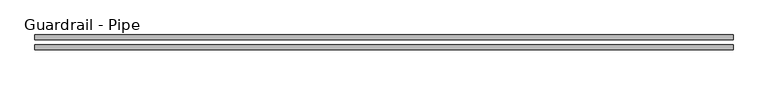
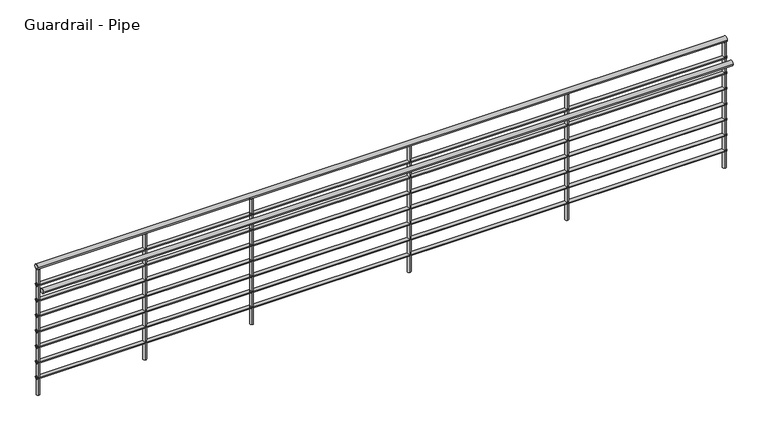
"""IFC4 building model written with IfcOpenShell, lengths in millimetres: railing geometry, Guardrail - Pipe."""

from ifc_helpers import new_model, si_unit, point, frame, frame_2d, origin, place, context, project, spatial, circle_curve, trimmed, segment, composite_curve, outline, extrude, source, transform, mapped, element, save


def guardrail_pipe_18aa489d(model_context):
    return source(origin(), model_context, "Body", "SweptSolid", [
        extrude(outline(composite_curve([segment(trimmed(circle_curve(frame_2d((3025.4810017, 4705.35)), 19.05), [point((3044.5310017, 4705.35))], [point((3006.4310017, 4705.35))], False, "CARTESIAN"), True, "CONTINUOUS"), segment(trimmed(circle_curve(frame_2d((3025.4810017, 4705.35)), 19.05), [point((3006.4310017, 4705.35))], [point((3044.5310017, 4705.35))], False, "CARTESIAN"), True, "CONTINUOUS")], self_intersect=False)), frame((1673.4060388, 0.0, 0.0), z_axis=(1.0, 0.0, 0.0), x_axis=(0.0, 1.0, 0.0)), (0.0, 0.0, 1.0), 5334.0),
        extrude(outline(composite_curve([segment(trimmed(circle_curve(frame_2d((3025.4810017, 4559.3)), 12.7), [point((3038.1810017, 4559.3))], [point((3012.7810017, 4559.3))], False, "CARTESIAN"), True, "CONTINUOUS"), segment(trimmed(circle_curve(frame_2d((3025.4810017, 4559.3)), 12.7), [point((3012.7810017, 4559.3))], [point((3038.1810017, 4559.3))], False, "CARTESIAN"), True, "CONTINUOUS")], self_intersect=False)), frame((1673.4060388, 0.0, 0.0), z_axis=(1.0, 0.0, 0.0), x_axis=(0.0, 1.0, 0.0)), (0.0, 0.0, 1.0), 5334.0),
        extrude(outline(composite_curve([segment(trimmed(circle_curve(frame_2d((2949.2810017, 4552.95)), 19.05), [point((2968.3310017, 4552.95))], [point((2930.2310017, 4552.95))], False, "CARTESIAN"), True, "CONTINUOUS"), segment(trimmed(circle_curve(frame_2d((2949.2810017, 4552.95)), 19.05), [point((2930.2310017, 4552.95))], [point((2968.3310017, 4552.95))], False, "CARTESIAN"), True, "CONTINUOUS")], self_intersect=False)), frame((1673.4060388, 0.0, 0.0), z_axis=(1.0, 0.0, 0.0), x_axis=(0.0, 1.0, 0.0)), (0.0, 0.0, 1.0), 5334.0),
        extrude(outline(composite_curve([segment(trimmed(circle_curve(frame_2d((3025.4810017, 4432.3)), 12.7), [point((3038.1810017, 4432.3))], [point((3012.7810017, 4432.3))], False, "CARTESIAN"), True, "CONTINUOUS"), segment(trimmed(circle_curve(frame_2d((3025.4810017, 4432.3)), 12.7), [point((3012.7810017, 4432.3))], [point((3038.1810017, 4432.3))], False, "CARTESIAN"), True, "CONTINUOUS")], self_intersect=False)), frame((1673.4060388, 0.0, 0.0), z_axis=(1.0, 0.0, 0.0), x_axis=(0.0, 1.0, 0.0)), (0.0, 0.0, 1.0), 5334.0),
        extrude(outline(composite_curve([segment(trimmed(circle_curve(frame_2d((3025.4810017, 4305.3)), 12.7), [point((3038.1810017, 4305.3))], [point((3012.7810017, 4305.3))], False, "CARTESIAN"), True, "CONTINUOUS"), segment(trimmed(circle_curve(frame_2d((3025.4810017, 4305.3)), 12.7), [point((3012.7810017, 4305.3))], [point((3038.1810017, 4305.3))], False, "CARTESIAN"), True, "CONTINUOUS")], self_intersect=False)), frame((1673.4060388, 0.0, 0.0), z_axis=(1.0, 0.0, 0.0), x_axis=(0.0, 1.0, 0.0)), (0.0, 0.0, 1.0), 5334.0),
        extrude(outline(composite_curve([segment(trimmed(circle_curve(frame_2d((3025.4810017, 4178.3)), 12.7), [point((3038.1810017, 4178.3))], [point((3012.7810017, 4178.3))], False, "CARTESIAN"), True, "CONTINUOUS"), segment(trimmed(circle_curve(frame_2d((3025.4810017, 4178.3)), 12.7), [point((3012.7810017, 4178.3))], [point((3038.1810017, 4178.3))], False, "CARTESIAN"), True, "CONTINUOUS")], self_intersect=False)), frame((1673.4060388, 0.0, 0.0), z_axis=(1.0, 0.0, 0.0), x_axis=(0.0, 1.0, 0.0)), (0.0, 0.0, 1.0), 5334.0),
        extrude(outline(composite_curve([segment(trimmed(circle_curve(frame_2d((3025.4810017, 4051.3)), 12.7), [point((3038.1810017, 4051.3))], [point((3012.7810017, 4051.3))], False, "CARTESIAN"), True, "CONTINUOUS"), segment(trimmed(circle_curve(frame_2d((3025.4810017, 4051.3)), 12.7), [point((3012.7810017, 4051.3))], [point((3038.1810017, 4051.3))], False, "CARTESIAN"), True, "CONTINUOUS")], self_intersect=False)), frame((1673.4060388, 0.0, 0.0), z_axis=(1.0, 0.0, 0.0), x_axis=(0.0, 1.0, 0.0)), (0.0, 0.0, 1.0), 5334.0),
        extrude(outline(composite_curve([segment(trimmed(circle_curve(frame_2d((3025.4810017, 3924.3)), 12.7), [point((3038.1810017, 3924.3))], [point((3012.7810017, 3924.3))], False, "CARTESIAN"), True, "CONTINUOUS"), segment(trimmed(circle_curve(frame_2d((3025.4810017, 3924.3)), 12.7), [point((3012.7810017, 3924.3))], [point((3038.1810017, 3924.3))], False, "CARTESIAN"), True, "CONTINUOUS")], self_intersect=False)), frame((1673.4060388, 0.0, 0.0), z_axis=(1.0, 0.0, 0.0), x_axis=(0.0, 1.0, 0.0)), (0.0, 0.0, 1.0), 5334.0),
        extrude(outline(composite_curve([segment(trimmed(circle_curve(frame_2d((3025.4810017, 3797.3)), 12.7), [point((3038.1810017, 3797.3))], [point((3012.7810017, 3797.3))], False, "CARTESIAN"), True, "CONTINUOUS"), segment(trimmed(circle_curve(frame_2d((3025.4810017, 3797.3)), 12.7), [point((3012.7810017, 3797.3))], [point((3038.1810017, 3797.3))], False, "CARTESIAN"), True, "CONTINUOUS")], self_intersect=False)), frame((1673.4060388, 0.0, 0.0), z_axis=(1.0, 0.0, 0.0), x_axis=(0.0, 1.0, 0.0)), (0.0, 0.0, 1.0), 5334.0),
        extrude(outline(composite_curve([segment(trimmed(circle_curve(frame_2d((6995.0244543, 3025.4810017)), 12.7), [point((6995.0244543, 3012.7810017))], [point((6995.0244543, 3038.1810017))], False, "CARTESIAN"), True, "CONTINUOUS"), segment(trimmed(circle_curve(frame_2d((6995.0244543, 3025.4810017)), 12.7), [point((6995.0244543, 3038.1810017))], [point((6995.0244543, 3012.7810017))], False, "CARTESIAN"), True, "CONTINUOUS")], self_intersect=False)), frame((0.0, 0.0, 3657.6), z_axis=(0.0, 0.0, 1.0), x_axis=(1.0, 0.0, 0.0)), (0.0, 0.0, 1.0), 1028.7),
        extrude(outline(composite_curve([segment(trimmed(circle_curve(frame_2d((5775.8244543, 3025.4810017)), 12.7), [point((5775.8244543, 3012.7810017))], [point((5775.8244543, 3038.1810017))], False, "CARTESIAN"), True, "CONTINUOUS"), segment(trimmed(circle_curve(frame_2d((5775.8244543, 3025.4810017)), 12.7), [point((5775.8244543, 3038.1810017))], [point((5775.8244543, 3012.7810017))], False, "CARTESIAN"), True, "CONTINUOUS")], self_intersect=False)), frame((0.0, 0.0, 3657.6), z_axis=(0.0, 0.0, 1.0), x_axis=(1.0, 0.0, 0.0)), (0.0, 0.0, 1.0), 1028.7),
        extrude(outline(composite_curve([segment(trimmed(circle_curve(frame_2d((4556.6244543, 3025.4810017)), 12.7), [point((4556.6244543, 3012.7810017))], [point((4556.6244543, 3038.1810017))], False, "CARTESIAN"), True, "CONTINUOUS"), segment(trimmed(circle_curve(frame_2d((4556.6244543, 3025.4810017)), 12.7), [point((4556.6244543, 3038.1810017))], [point((4556.6244543, 3012.7810017))], False, "CARTESIAN"), True, "CONTINUOUS")], self_intersect=False)), frame((0.0, 0.0, 3657.6), z_axis=(0.0, 0.0, 1.0), x_axis=(1.0, 0.0, 0.0)), (0.0, 0.0, 1.0), 1028.7),
        extrude(outline(composite_curve([segment(trimmed(circle_curve(frame_2d((3337.4244543, 3025.4810017)), 12.7), [point((3337.4244543, 3012.7810017))], [point((3337.4244543, 3038.1810017))], False, "CARTESIAN"), True, "CONTINUOUS"), segment(trimmed(circle_curve(frame_2d((3337.4244543, 3025.4810017)), 12.7), [point((3337.4244543, 3038.1810017))], [point((3337.4244543, 3012.7810017))], False, "CARTESIAN"), True, "CONTINUOUS")], self_intersect=False)), frame((0.0, 0.0, 3657.6), z_axis=(0.0, 0.0, 1.0), x_axis=(1.0, 0.0, 0.0)), (0.0, 0.0, 1.0), 1028.7),
        extrude(outline(composite_curve([segment(trimmed(circle_curve(frame_2d((2511.6060388, 3025.4810017)), 12.7), [point((2511.6060388, 3012.7810017))], [point((2511.6060388, 3038.1810017))], False, "CARTESIAN"), True, "CONTINUOUS"), segment(trimmed(circle_curve(frame_2d((2511.6060388, 3025.4810017)), 12.7), [point((2511.6060388, 3038.1810017))], [point((2511.6060388, 3012.7810017))], False, "CARTESIAN"), True, "CONTINUOUS")], self_intersect=False)), frame((0.0, 0.0, 3657.6), z_axis=(0.0, 0.0, 1.0), x_axis=(1.0, 0.0, 0.0)), (0.0, 0.0, 1.0), 1028.7),
        extrude(outline(composite_curve([segment(trimmed(circle_curve(frame_2d((1685.7876233, 3025.4810017)), 12.7), [point((1685.7876233, 3012.7810017))], [point((1685.7876233, 3038.1810017))], False, "CARTESIAN"), True, "CONTINUOUS"), segment(trimmed(circle_curve(frame_2d((1685.7876233, 3025.4810017)), 12.7), [point((1685.7876233, 3038.1810017))], [point((1685.7876233, 3012.7810017))], False, "CARTESIAN"), True, "CONTINUOUS")], self_intersect=False)), frame((0.0, 0.0, 3657.6), z_axis=(0.0, 0.0, 1.0), x_axis=(1.0, 0.0, 0.0)), (0.0, 0.0, 1.0), 1028.7),
    ])


if __name__ == "__main__":
    model = new_model("IFC4")
    model_context = context("Model", 3, world=origin())
    ifc_project = project(units=[si_unit("LENGTHUNIT", "METRE", prefix="MILLI")], contexts=[model_context])
    site = spatial("IfcSite", under=ifc_project)
    building = spatial("IfcBuilding", under=site)
    placement = place(None, origin())
    guardrail_pipe_shape = guardrail_pipe_18aa489d(model_context)
    element("IfcRailing", 1, ObjectType="Guardrail - Pipe", at=placement, inside=building, context=model_context, shape_type="MappedRepresentation", body=[
        mapped(guardrail_pipe_shape, transform((0.0, 0.0, 0.0), x_axis=(1.0, 0.0, 0.0), y_axis=(0.0, 1.0, 0.0), z_axis=(0.0, 0.0, 1.0))),
    ])
    save(model, "model.ifc")
